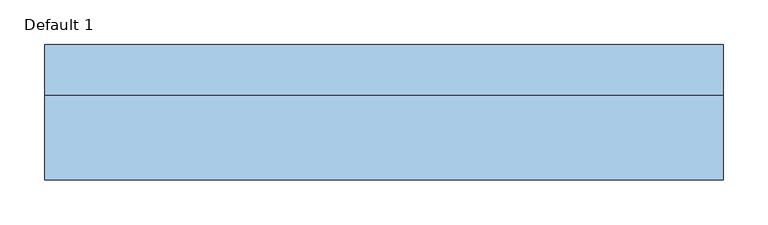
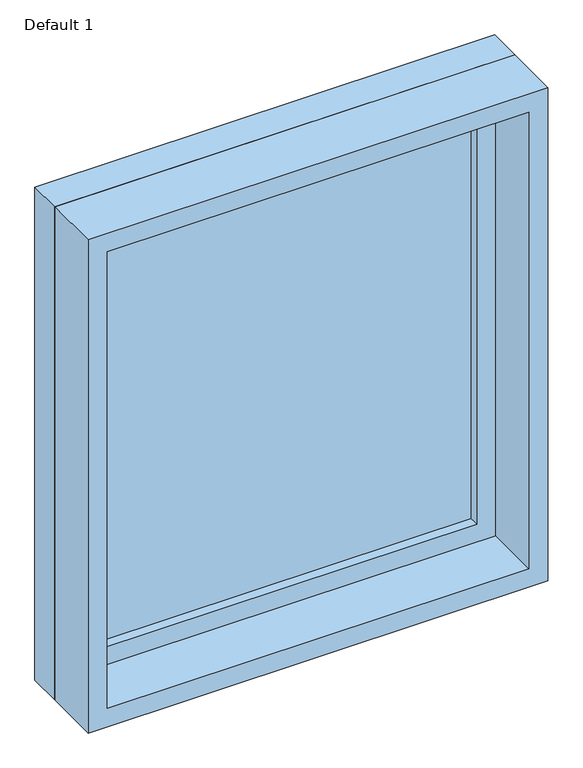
"""IFC4 building model written with IfcOpenShell, lengths in millimetres: window geometry, Planitar-Fixed : Default 1."""

from ifc_helpers import new_model, si_unit, frame, origin, place, context, project, spatial, polyline, outline, extrude, source, transform, mapped, element, save


def default_1_b686479b(model_context):
    return source(origin(), model_context, "Body", "SweptSolid", [
        extrude(outline(polyline([(1759.0, -362.0), (933.4, -362.0), (933.4, 362.0), (1759.0, 362.0), (1759.0, -362.0)]), holes=[polyline([(1715.0, -318.0), (1715.0, 318.0), (977.4, 318.0), (977.4, -318.0), (1715.0, -318.0)])]), frame((0.0, 32.5, 0.0), z_axis=(0.0, 1.0, 0.0), x_axis=(0.0, 0.0, 1.0)), (0.0, 0.0, 1.0), 44.0),
        extrude(outline(polyline([(1778.0, -381.0), (914.4, -381.0), (914.4, 381.0), (1778.0, 381.0), (1778.0, -381.0)]), holes=[polyline([(1759.0, -362.0), (1759.0, 362.0), (933.4, 362.0), (933.4, -362.0), (1759.0, -362.0)])]), frame((0.0, 32.5, 0.0), z_axis=(0.0, 1.0, 0.0), x_axis=(0.0, 0.0, 1.0)), (0.0, 0.0, 1.0), 56.7),
        extrude(outline(polyline([(1778.0, -381.0), (914.4, -381.0), (914.4, 381.0), (1778.0, 381.0), (1778.0, -381.0)]), holes=[polyline([(1746.0, -349.0), (1746.0, 349.0), (946.4, 349.0), (946.4, -349.0), (1746.0, -349.0)])]), frame((0.0, -63.2, 0.0), z_axis=(0.0, 1.0, 0.0), x_axis=(0.0, 0.0, 1.0)), (0.0, 0.0, 1.0), 95.7),
        extrude(outline(polyline([(-318.0, 60.5), (318.0, 60.5), (318.0, 48.5), (-318.0, 48.5), (-318.0, 60.5)])), frame((0.0, 0.0, 977.4), z_axis=(0.0, 0.0, 1.0), x_axis=(1.0, 0.0, 0.0)), (0.0, 0.0, 1.0), 737.6),
    ])


if __name__ == "__main__":
    model = new_model("IFC4")
    model_context = context("Model", 3, world=origin())
    ifc_project = project(units=[si_unit("LENGTHUNIT", "METRE", prefix="MILLI")], contexts=[model_context])
    site = spatial("IfcSite", under=ifc_project)
    building = spatial("IfcBuilding", under=site)
    placement = place(None, origin())
    default_1_shape = default_1_b686479b(model_context)
    element("IfcWindow", 1, ObjectType="Planitar-Fixed : Default 1", at=placement, inside=building, context=model_context, shape_type="MappedRepresentation", body=[
        mapped(default_1_shape, transform((0.0, 0.0, 0.0), x_axis=(1.0, 0.0, 0.0), y_axis=(0.0, 1.0, 0.0), z_axis=(0.0, 0.0, 1.0))),
    ])
    save(model, "model.ifc")
